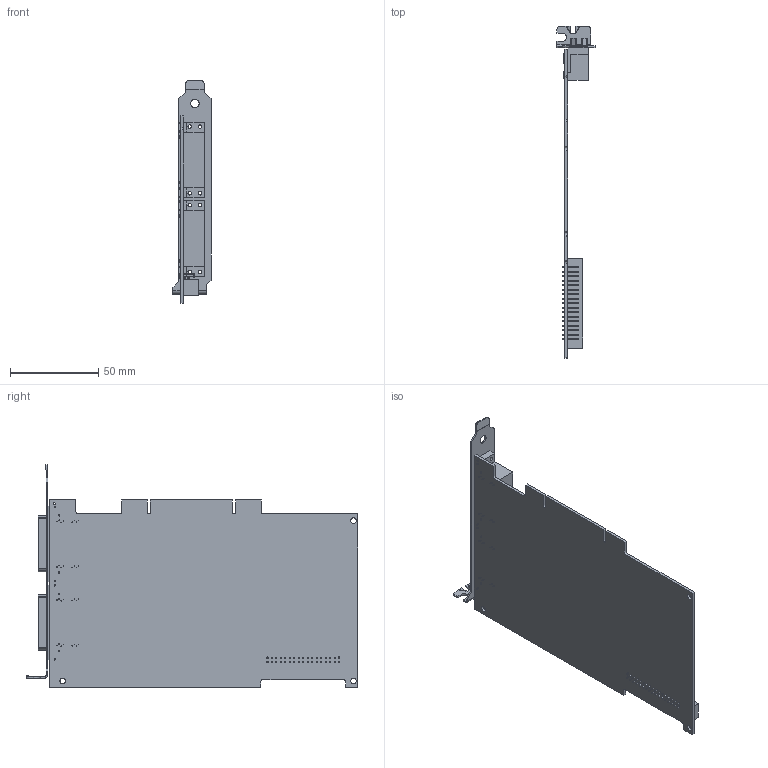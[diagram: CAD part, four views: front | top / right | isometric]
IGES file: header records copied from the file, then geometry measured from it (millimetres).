
Start section:  PTC IGES file: cu_pci-781xr.igs
Global section: file name: cu_pci-781xr.igs; native system: Pro/ENGINEER by Parametric Technology Corporation; preprocessor: 2010230; author: dkendric; organization: Unknown; date: 20110811.162136; units: inch
Bounding box: 21.59 x 187.91 x 126.22 mm (x, y, z)
Surface area: 48235.5 mm2 (no closed solid volume)
Topology: 0 solids, 0 shells, 963 faces, 5162 edges, 5162 vertices
Faces by surface type: bspline 729, revolution 234
